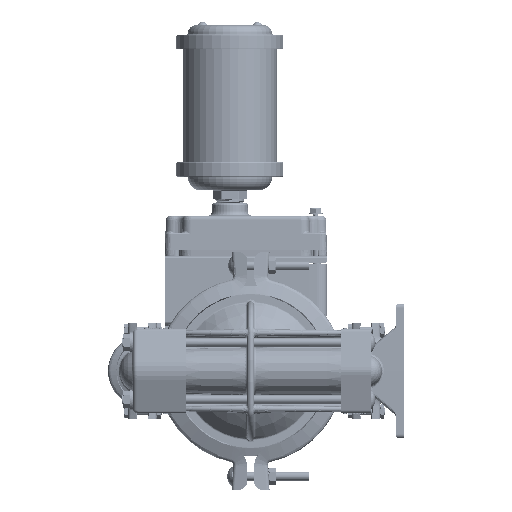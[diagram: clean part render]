
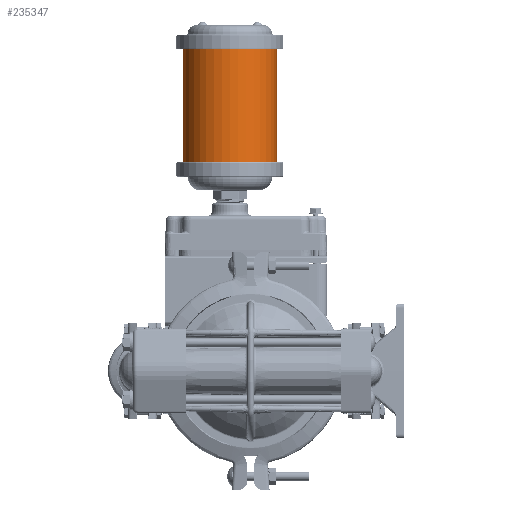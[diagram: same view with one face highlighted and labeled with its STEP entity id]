
A CAD part, left-side view. The second image highlights one B-rep face of the part: STEP entity #235347.
In plain terms, the highlighted cylindrical face has radius 35.56 mm (diameter 71.12 mm), a partial arc.
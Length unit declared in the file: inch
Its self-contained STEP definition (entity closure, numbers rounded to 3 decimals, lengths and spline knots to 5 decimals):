
#96149=DIRECTION('',(0.,0.,1.));
#96150=VECTOR('',#96149,3.339);
#96151=CARTESIAN_POINT('',(0.,-0.787,6.195));
#96152=LINE('',#96151,#96150);
#96153=DIRECTION('',(0.,0.,1.));
#96154=VECTOR('',#96153,3.339);
#96155=CARTESIAN_POINT('',(0.,2.013,6.195));
#96156=LINE('',#96155,#96154);
#96162=CARTESIAN_POINT('',(0.,0.613,6.195));
#96163=DIRECTION('',(0.,0.,-1.));
#96164=DIRECTION('',(0.,-1.,0.));
#96165=AXIS2_PLACEMENT_3D('',#96162,#96163,#96164);
#96177=CARTESIAN_POINT('',(0.,0.613,9.534));
#96178=DIRECTION('',(0.,0.,-1.));
#96179=DIRECTION('',(0.,-1.,0.));
#96180=AXIS2_PLACEMENT_3D('',#96177,#96178,#96179);
#132971=CARTESIAN_POINT('',(0.,-0.787,6.195));
#132972=CARTESIAN_POINT('',(0.,-0.787,9.534));
#132973=VERTEX_POINT('',#132971);
#132974=VERTEX_POINT('',#132972);
#132975=CARTESIAN_POINT('',(0.,2.013,6.195));
#132976=CARTESIAN_POINT('',(0.,2.013,9.534));
#132977=VERTEX_POINT('',#132975);
#132978=VERTEX_POINT('',#132976);
#235335=CARTESIAN_POINT('',(0.,0.613,10.5));
#235336=DIRECTION('',(0.,0.,-1.));
#235337=DIRECTION('',(0.,1.,0.));
#235338=AXIS2_PLACEMENT_3D('',#235335,#235336,#235337);
#235339=CYLINDRICAL_SURFACE('',#235338,1.4);
#235340=ORIENTED_EDGE('',*,*,#235325,.F.);
#235341=ORIENTED_EDGE('',*,*,#235303,.T.);
#235342=ORIENTED_EDGE('',*,*,#235329,.T.);
#235344=ORIENTED_EDGE('',*,*,#235343,.F.);
#235345=EDGE_LOOP('',(#235340,#235341,#235342,#235344));
#235346=FACE_OUTER_BOUND('',#235345,.F.);
#235347=ADVANCED_FACE('',(#235346),#235339,.T.);
#96166=CIRCLE('',#96165,1.4);
#96181=CIRCLE('',#96180,1.4);
#235303=EDGE_CURVE('',#132973,#132977,#96166,.T.);
#235325=EDGE_CURVE('',#132973,#132974,#96152,.T.);
#235329=EDGE_CURVE('',#132977,#132978,#96156,.T.);
#235343=EDGE_CURVE('',#132974,#132978,#96181,.T.);
